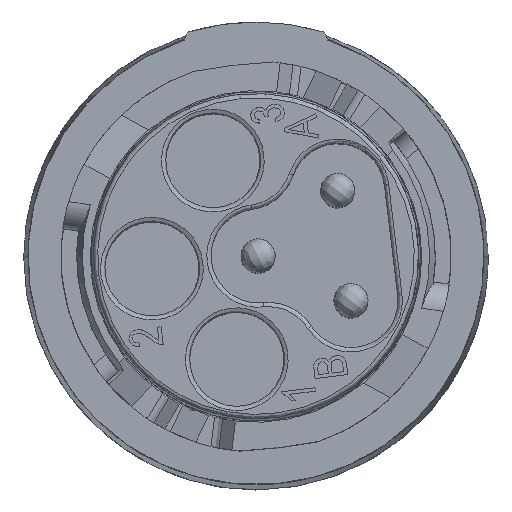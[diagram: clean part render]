
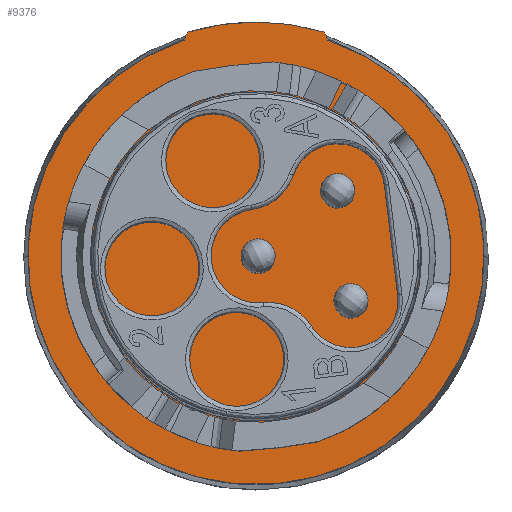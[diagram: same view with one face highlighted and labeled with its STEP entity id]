
A CAD part, top view. The second image highlights one B-rep face of the part: STEP entity #9376.
In plain terms, the highlighted planar face has unit normal (0, 0, 1).
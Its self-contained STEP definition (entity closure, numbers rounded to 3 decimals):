
#403 = DIRECTION ( 'NONE',  ( 1., 0., 0. ) ) ;
#884 = AXIS2_PLACEMENT_3D ( 'NONE', #5781, #17899, #14843 ) ;
#1208 = CARTESIAN_POINT ( 'NONE',  ( -63.838, 278.618, -581.011 ) ) ;
#1299 = DIRECTION ( 'NONE',  ( 0., 0., 1. ) ) ;
#1709 = EDGE_CURVE ( 'NONE', #18609, #18254, #8975, .T. ) ;
#1965 = VECTOR ( 'NONE', #16465, 1000. ) ;
#2351 = EDGE_CURVE ( 'NONE', #8304, #18254, #19026, .T. ) ;
#3410 = ORIENTED_EDGE ( 'NONE', *, *, #5285, .F. ) ;
#3608 = EDGE_LOOP ( 'NONE', ( #3410, #10695, #4711, #16528, #7362, #7420 ) ) ;
#4305 = DIRECTION ( 'NONE',  ( 0., 0., -1. ) ) ;
#4362 = EDGE_CURVE ( 'NONE', #16503, #17910, #13060, .T. ) ;
#4548 = DIRECTION ( 'NONE',  ( 0., -1., 0. ) ) ;
#4711 = ORIENTED_EDGE ( 'NONE', *, *, #2351, .T. ) ;
#5075 = CIRCLE ( 'NONE', #16078, 0.332 ) ;
#5155 = CARTESIAN_POINT ( 'NONE',  ( -70.488, 278.764, -581.011 ) ) ;
#5285 = EDGE_CURVE ( 'NONE', #7342, #17910, #17845, .T. ) ;
#5414 = CARTESIAN_POINT ( 'NONE',  ( -64.077, 279.084, -581.011 ) ) ;
#5453 = CARTESIAN_POINT ( 'NONE',  ( -63.838, 278.764, -581.011 ) ) ;
#5781 = CARTESIAN_POINT ( 'NONE',  ( -77.749, 279.655, -581.011 ) ) ;
#5829 = AXIS2_PLACEMENT_3D ( 'NONE', #17804, #4305, #10309 ) ;
#6597 = DIRECTION ( 'NONE',  ( 0., 0., 1. ) ) ;
#6656 = CARTESIAN_POINT ( 'NONE',  ( -70.249, 279.084, -581.011 ) ) ;
#7342 = VERTEX_POINT ( 'NONE', #5453 ) ;
#7362 = ORIENTED_EDGE ( 'NONE', *, *, #18806, .F. ) ;
#7420 = ORIENTED_EDGE ( 'NONE', *, *, #4362, .T. ) ;
#7694 = CARTESIAN_POINT ( 'NONE',  ( -70.488, 278.618, -581.011 ) ) ;
#8304 = VERTEX_POINT ( 'NONE', #5414 ) ;
#8551 = PLANE ( 'NONE',  #884 ) ;
#8972 = VECTOR ( 'NONE', #4548, 1000. ) ;
#8975 = CIRCLE ( 'NONE', #5829, 0.332 ) ;
#9376 = ADVANCED_FACE ( 'NONE', ( #15749 ), #8551, .F. ) ;
#10309 = DIRECTION ( 'NONE',  ( 1., 0., 0. ) ) ;
#10548 = AXIS2_PLACEMENT_3D ( 'NONE', #12509, #6597, #403 ) ;
#10695 = ORIENTED_EDGE ( 'NONE', *, *, #16597, .F. ) ;
#12509 = CARTESIAN_POINT ( 'NONE',  ( -67.163, 268.554, -581.011 ) ) ;
#13060 = CIRCLE ( 'NONE', #14634, 10.66 ) ;
#13402 = CARTESIAN_POINT ( 'NONE',  ( -67.163, 268.554, -581.011 ) ) ;
#14634 = AXIS2_PLACEMENT_3D ( 'NONE', #13402, #1299, #19408 ) ;
#14843 = DIRECTION ( 'NONE',  ( 1., 0., 0. ) ) ;
#15749 = FACE_OUTER_BOUND ( 'NONE', #3608, .T. ) ;
#15858 = DIRECTION ( 'NONE',  ( 1., 0., 0. ) ) ;
#16052 = DIRECTION ( 'NONE',  ( 0., 0., -1. ) ) ;
#16078 = AXIS2_PLACEMENT_3D ( 'NONE', #17532, #16052, #15858 ) ;
#16465 = DIRECTION ( 'NONE',  ( 0., 1., 0. ) ) ;
#16503 = VERTEX_POINT ( 'NONE', #17045 ) ;
#16528 = ORIENTED_EDGE ( 'NONE', *, *, #1709, .F. ) ;
#16597 = EDGE_CURVE ( 'NONE', #8304, #7342, #5075, .T. ) ;
#16762 = LINE ( 'NONE', #7694, #1965 ) ;
#17045 = CARTESIAN_POINT ( 'NONE',  ( -70.488, 278.682, -581.011 ) ) ;
#17532 = CARTESIAN_POINT ( 'NONE',  ( -64.171, 278.764, -581.011 ) ) ;
#17804 = CARTESIAN_POINT ( 'NONE',  ( -70.156, 278.764, -581.011 ) ) ;
#17845 = LINE ( 'NONE', #1208, #8972 ) ;
#17899 = DIRECTION ( 'NONE',  ( 0., 0., -1. ) ) ;
#17910 = VERTEX_POINT ( 'NONE', #18214 ) ;
#18214 = CARTESIAN_POINT ( 'NONE',  ( -63.838, 278.682, -581.011 ) ) ;
#18254 = VERTEX_POINT ( 'NONE', #6656 ) ;
#18609 = VERTEX_POINT ( 'NONE', #5155 ) ;
#18806 = EDGE_CURVE ( 'NONE', #16503, #18609, #16762, .T. ) ;
#19026 = CIRCLE ( 'NONE', #10548, 10.973 ) ;
#19408 = DIRECTION ( 'NONE',  ( 1., 0., 0. ) ) ;
